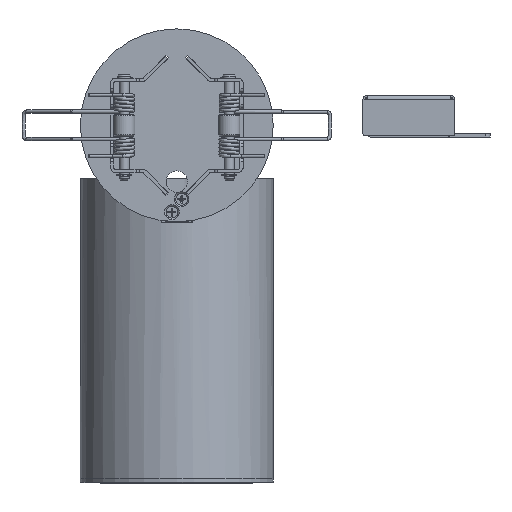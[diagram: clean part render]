
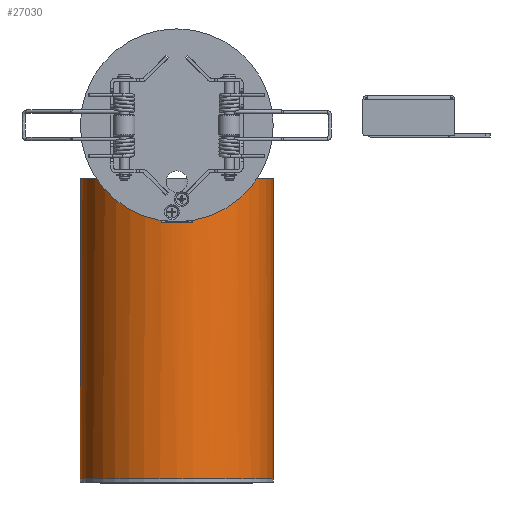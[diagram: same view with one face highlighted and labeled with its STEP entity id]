
A CAD part, front view. The second image highlights one B-rep face of the part: STEP entity #27030.
In plain terms, the highlighted cylindrical face has radius 45 mm (diameter 90 mm), a full revolution.
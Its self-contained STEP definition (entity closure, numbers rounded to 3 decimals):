
#949=CYLINDRICAL_SURFACE('',#34613,45.);
#1281=LINE('',#44621,#4001);
#1284=LINE('',#44627,#4004);
#4001=VECTOR('',#37040,1000.);
#4004=VECTOR('',#37045,1000.);
#6744=ORIENTED_EDGE('',*,*,#14490,.T.);
#6745=ORIENTED_EDGE('',*,*,#14484,.T.);
#6746=ORIENTED_EDGE('',*,*,#14475,.T.);
#6747=ORIENTED_EDGE('',*,*,#14481,.F.);
#6748=ORIENTED_EDGE('',*,*,#14488,.F.);
#14475=EDGE_CURVE('',#18354,#18355,#20959,.T.);
#14481=EDGE_CURVE('',#18359,#18355,#1281,.T.);
#14484=EDGE_CURVE('',#18361,#18354,#1284,.T.);
#14488=EDGE_CURVE('',#18365,#18365,#20964,.T.);
#14490=EDGE_CURVE('',#18359,#18361,#20966,.T.);
#18354=VERTEX_POINT('',#44609);
#18355=VERTEX_POINT('',#44610);
#18359=VERTEX_POINT('',#44620);
#18361=VERTEX_POINT('',#44625);
#18365=VERTEX_POINT('',#44638);
#20959=CIRCLE('',#34598,45.);
#20964=CIRCLE('',#34608,45.);
#20966=CIRCLE('',#34612,45.);
#21644=EDGE_LOOP('',(#6744,#6745,#6746,#6747));
#21645=EDGE_LOOP('',(#6748));
#23756=FACE_BOUND('',#21644,.T.);
#23757=FACE_BOUND('',#21645,.T.);
#27030=ADVANCED_FACE('',(#23756,#23757),#949,.T.);
#34598=AXIS2_PLACEMENT_3D('',#44608,#37030,#37031);
#34608=AXIS2_PLACEMENT_3D('',#44637,#37058,#37059);
#34612=AXIS2_PLACEMENT_3D('',#44642,#37066,#37067);
#34613=AXIS2_PLACEMENT_3D('',#44643,#37068,#37069);
#37030=DIRECTION('',(0.,-1.,0.));
#37031=DIRECTION('',(1.,0.,0.));
#37040=DIRECTION('',(0.,-1.,0.));
#37045=DIRECTION('',(0.,-1.,0.));
#37058=DIRECTION('',(0.,-1.,0.));
#37059=DIRECTION('',(0.,0.,-1.));
#37066=DIRECTION('',(0.,-1.,0.));
#37067=DIRECTION('',(0.,0.,-1.));
#37068=DIRECTION('',(0.,-1.,0.));
#37069=DIRECTION('',(0.,0.,-1.));
#44608=CARTESIAN_POINT('',(0.,119.3,0.));
#44609=CARTESIAN_POINT('',(-7.25,119.3,-44.412));
#44610=CARTESIAN_POINT('',(7.25,119.3,-44.412));
#44620=CARTESIAN_POINT('',(7.25,140.,-44.412));
#44621=CARTESIAN_POINT('',(7.25,-60.,-44.412));
#44625=CARTESIAN_POINT('',(-7.25,140.,-44.412));
#44627=CARTESIAN_POINT('',(-7.25,-60.,-44.412));
#44637=CARTESIAN_POINT('',(0.,0.,0.));
#44638=CARTESIAN_POINT('',(0.,0.,-45.));
#44642=CARTESIAN_POINT('',(0.,140.,0.));
#44643=CARTESIAN_POINT('',(0.,-60.,0.));
